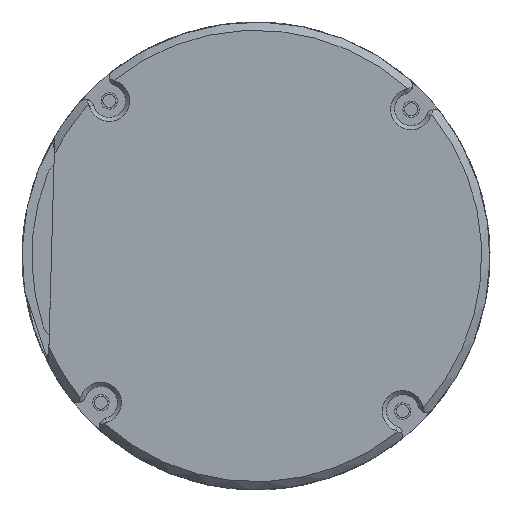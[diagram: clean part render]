
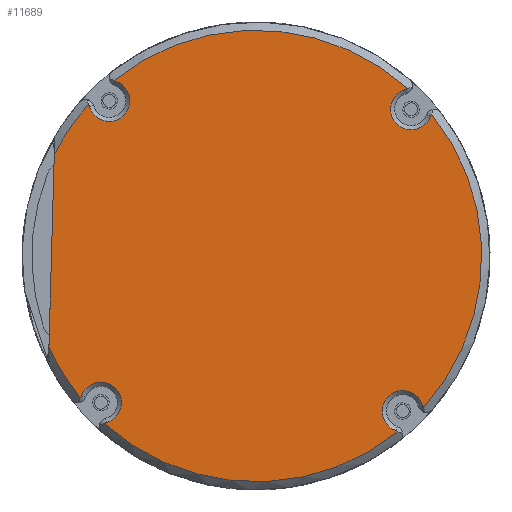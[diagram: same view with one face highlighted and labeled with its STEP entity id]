
A CAD part, left-side view. The second image highlights one B-rep face of the part: STEP entity #11689.
In plain terms, the highlighted planar face has unit normal (-1, 0, 0).
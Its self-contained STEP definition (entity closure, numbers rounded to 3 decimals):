
#785=PLANE('',#12891);
#1244=FACE_OUTER_BOUND('',#1975,.T.);
#1975=EDGE_LOOP('',(#9025,#9026,#9027,#9028,#9029,#9030,#9031,#9032,#9033,
#9034,#9035,#9036,#9037,#9038,#9039,#9040,#9041,#9042));
#2883=CIRCLE('',#12880,27.5);
#2890=CIRCLE('',#12892,0.5);
#2891=CIRCLE('',#12893,2.5);
#2892=CIRCLE('',#12894,0.5);
#2893=CIRCLE('',#12895,27.5);
#2894=CIRCLE('',#12896,0.5);
#2895=CIRCLE('',#12897,2.5);
#2896=CIRCLE('',#12898,0.5);
#2897=CIRCLE('',#12899,27.5);
#2898=CIRCLE('',#12900,0.5);
#2899=CIRCLE('',#12901,2.5);
#2900=CIRCLE('',#12902,0.5);
#2901=CIRCLE('',#12903,27.5);
#2902=CIRCLE('',#12904,0.5);
#2903=CIRCLE('',#12905,2.5);
#2904=CIRCLE('',#12906,0.5);
#2905=CIRCLE('',#12907,27.5);
#3542=LINE('',#20509,#4193);
#4193=VECTOR('',#15484,10.);
#5258=VERTEX_POINT('',#20504);
#5259=VERTEX_POINT('',#20508);
#5277=VERTEX_POINT('',#20572);
#5286=VERTEX_POINT('',#20605);
#5287=VERTEX_POINT('',#20607);
#5288=VERTEX_POINT('',#20609);
#5289=VERTEX_POINT('',#20611);
#5290=VERTEX_POINT('',#20613);
#5291=VERTEX_POINT('',#20615);
#5292=VERTEX_POINT('',#20617);
#5293=VERTEX_POINT('',#20619);
#5294=VERTEX_POINT('',#20621);
#5295=VERTEX_POINT('',#20623);
#5296=VERTEX_POINT('',#20625);
#5297=VERTEX_POINT('',#20627);
#5298=VERTEX_POINT('',#20629);
#5299=VERTEX_POINT('',#20631);
#5300=VERTEX_POINT('',#20633);
#6668=EDGE_CURVE('',#5258,#5259,#3542,.T.);
#6693=EDGE_CURVE('',#5258,#5277,#2883,.T.);
#6706=EDGE_CURVE('',#5277,#5286,#2890,.T.);
#6707=EDGE_CURVE('',#5286,#5287,#2891,.T.);
#6708=EDGE_CURVE('',#5287,#5288,#2892,.T.);
#6709=EDGE_CURVE('',#5288,#5289,#2893,.T.);
#6710=EDGE_CURVE('',#5289,#5290,#2894,.T.);
#6711=EDGE_CURVE('',#5290,#5291,#2895,.T.);
#6712=EDGE_CURVE('',#5291,#5292,#2896,.T.);
#6713=EDGE_CURVE('',#5292,#5293,#2897,.T.);
#6714=EDGE_CURVE('',#5293,#5294,#2898,.T.);
#6715=EDGE_CURVE('',#5294,#5295,#2899,.T.);
#6716=EDGE_CURVE('',#5295,#5296,#2900,.T.);
#6717=EDGE_CURVE('',#5296,#5297,#2901,.T.);
#6718=EDGE_CURVE('',#5297,#5298,#2902,.T.);
#6719=EDGE_CURVE('',#5298,#5299,#2903,.T.);
#6720=EDGE_CURVE('',#5299,#5300,#2904,.T.);
#6721=EDGE_CURVE('',#5300,#5259,#2905,.T.);
#9025=ORIENTED_EDGE('',*,*,#6668,.F.);
#9026=ORIENTED_EDGE('',*,*,#6693,.T.);
#9027=ORIENTED_EDGE('',*,*,#6706,.T.);
#9028=ORIENTED_EDGE('',*,*,#6707,.T.);
#9029=ORIENTED_EDGE('',*,*,#6708,.T.);
#9030=ORIENTED_EDGE('',*,*,#6709,.T.);
#9031=ORIENTED_EDGE('',*,*,#6710,.T.);
#9032=ORIENTED_EDGE('',*,*,#6711,.T.);
#9033=ORIENTED_EDGE('',*,*,#6712,.T.);
#9034=ORIENTED_EDGE('',*,*,#6713,.T.);
#9035=ORIENTED_EDGE('',*,*,#6714,.T.);
#9036=ORIENTED_EDGE('',*,*,#6715,.T.);
#9037=ORIENTED_EDGE('',*,*,#6716,.T.);
#9038=ORIENTED_EDGE('',*,*,#6717,.T.);
#9039=ORIENTED_EDGE('',*,*,#6718,.T.);
#9040=ORIENTED_EDGE('',*,*,#6719,.T.);
#9041=ORIENTED_EDGE('',*,*,#6720,.T.);
#9042=ORIENTED_EDGE('',*,*,#6721,.T.);
#11689=ADVANCED_FACE('',(#1244),#785,.T.);
#12880=AXIS2_PLACEMENT_3D('',#20579,#15523,#15524);
#12891=AXIS2_PLACEMENT_3D('',#20604,#15551,#15552);
#12892=AXIS2_PLACEMENT_3D('',#20606,#15553,#15554);
#12893=AXIS2_PLACEMENT_3D('',#20608,#15555,#15556);
#12894=AXIS2_PLACEMENT_3D('',#20610,#15557,#15558);
#12895=AXIS2_PLACEMENT_3D('',#20612,#15559,#15560);
#12896=AXIS2_PLACEMENT_3D('',#20614,#15561,#15562);
#12897=AXIS2_PLACEMENT_3D('',#20616,#15563,#15564);
#12898=AXIS2_PLACEMENT_3D('',#20618,#15565,#15566);
#12899=AXIS2_PLACEMENT_3D('',#20620,#15567,#15568);
#12900=AXIS2_PLACEMENT_3D('',#20622,#15569,#15570);
#12901=AXIS2_PLACEMENT_3D('',#20624,#15571,#15572);
#12902=AXIS2_PLACEMENT_3D('',#20626,#15573,#15574);
#12903=AXIS2_PLACEMENT_3D('',#20628,#15575,#15576);
#12904=AXIS2_PLACEMENT_3D('',#20630,#15577,#15578);
#12905=AXIS2_PLACEMENT_3D('',#20632,#15579,#15580);
#12906=AXIS2_PLACEMENT_3D('',#20634,#15581,#15582);
#12907=AXIS2_PLACEMENT_3D('',#20635,#15583,#15584);
#15484=DIRECTION('',(0.,-0.028,1.));
#15523=DIRECTION('center_axis',(-1.,0.,0.));
#15524=DIRECTION('ref_axis',(0.,-1.,-0.028));
#15551=DIRECTION('center_axis',(-1.,0.,0.));
#15552=DIRECTION('ref_axis',(0.,1.,0.028));
#15553=DIRECTION('center_axis',(-1.,0.,0.));
#15554=DIRECTION('ref_axis',(0.,1.,0.028));
#15555=DIRECTION('center_axis',(1.,0.,0.));
#15556=DIRECTION('ref_axis',(0.,1.,0.028));
#15557=DIRECTION('center_axis',(-1.,0.,0.));
#15558=DIRECTION('ref_axis',(0.,1.,0.028));
#15559=DIRECTION('center_axis',(-1.,0.,0.));
#15560=DIRECTION('ref_axis',(0.,-1.,-0.028));
#15561=DIRECTION('center_axis',(-1.,0.,0.));
#15562=DIRECTION('ref_axis',(0.,1.,0.028));
#15563=DIRECTION('center_axis',(1.,0.,0.));
#15564=DIRECTION('ref_axis',(0.,1.,0.028));
#15565=DIRECTION('center_axis',(-1.,0.,0.));
#15566=DIRECTION('ref_axis',(0.,1.,0.028));
#15567=DIRECTION('center_axis',(-1.,0.,0.));
#15568=DIRECTION('ref_axis',(0.,-1.,-0.028));
#15569=DIRECTION('center_axis',(-1.,0.,0.));
#15570=DIRECTION('ref_axis',(0.,1.,0.028));
#15571=DIRECTION('center_axis',(1.,0.,0.));
#15572=DIRECTION('ref_axis',(0.,1.,0.028));
#15573=DIRECTION('center_axis',(-1.,0.,0.));
#15574=DIRECTION('ref_axis',(0.,1.,0.028));
#15575=DIRECTION('center_axis',(-1.,0.,0.));
#15576=DIRECTION('ref_axis',(0.,-1.,-0.028));
#15577=DIRECTION('center_axis',(-1.,0.,0.));
#15578=DIRECTION('ref_axis',(0.,1.,0.028));
#15579=DIRECTION('center_axis',(1.,0.,0.));
#15580=DIRECTION('ref_axis',(0.,1.,0.028));
#15581=DIRECTION('center_axis',(-1.,0.,0.));
#15582=DIRECTION('ref_axis',(0.,1.,0.028));
#15583=DIRECTION('center_axis',(-1.,0.,0.));
#15584=DIRECTION('ref_axis',(0.,-1.,-0.028));
#20504=CARTESIAN_POINT('',(139.653,25.213,-10.979));
#20508=CARTESIAN_POINT('',(139.653,24.568,12.357));
#20509=CARTESIAN_POINT('',(139.653,25.519,-22.01));
#20572=CARTESIAN_POINT('',(139.653,21.406,-17.264));
#20579=CARTESIAN_POINT('Origin',(139.653,0.,
0.));
#20604=CARTESIAN_POINT('Origin',(139.653,0.761,-27.489));
#20605=CARTESIAN_POINT('',(139.653,21.244,-17.038));
#20606=CARTESIAN_POINT('Origin',(139.653,21.716,-16.872));
#20607=CARTESIAN_POINT('',(139.653,18.187,-20.269));
#20608=CARTESIAN_POINT('Origin',(139.653,18.886,-17.869));
#20609=CARTESIAN_POINT('',(139.653,18.422,-20.418));
#20610=CARTESIAN_POINT('Origin',(139.653,18.048,-20.749));
#20611=CARTESIAN_POINT('',(139.653,-17.264,-21.406));
#20612=CARTESIAN_POINT('Origin',(139.653,0.,
0.));
#20613=CARTESIAN_POINT('',(139.653,-17.038,-21.244));
#20614=CARTESIAN_POINT('Origin',(139.653,-16.872,-21.716));
#20615=CARTESIAN_POINT('',(139.653,-20.269,-18.187));
#20616=CARTESIAN_POINT('Origin',(139.653,-17.869,-18.886));
#20617=CARTESIAN_POINT('',(139.653,-20.418,-18.422));
#20618=CARTESIAN_POINT('Origin',(139.653,-20.749,-18.048));
#20619=CARTESIAN_POINT('',(139.653,-21.406,17.264));
#20620=CARTESIAN_POINT('Origin',(139.653,0.,
0.));
#20621=CARTESIAN_POINT('',(139.653,-21.244,17.038));
#20622=CARTESIAN_POINT('Origin',(139.653,-21.716,16.872));
#20623=CARTESIAN_POINT('',(139.653,-18.187,20.269));
#20624=CARTESIAN_POINT('Origin',(139.653,-18.886,17.869));
#20625=CARTESIAN_POINT('',(139.653,-18.422,20.418));
#20626=CARTESIAN_POINT('Origin',(139.653,-18.048,20.749));
#20627=CARTESIAN_POINT('',(139.653,17.264,21.406));
#20628=CARTESIAN_POINT('Origin',(139.653,0.,
0.));
#20629=CARTESIAN_POINT('',(139.653,17.038,21.244));
#20630=CARTESIAN_POINT('Origin',(139.653,16.872,21.716));
#20631=CARTESIAN_POINT('',(139.653,20.269,18.187));
#20632=CARTESIAN_POINT('Origin',(139.653,17.869,18.886));
#20633=CARTESIAN_POINT('',(139.653,20.418,18.422));
#20634=CARTESIAN_POINT('Origin',(139.653,20.749,18.048));
#20635=CARTESIAN_POINT('Origin',(139.653,0.,
0.));
